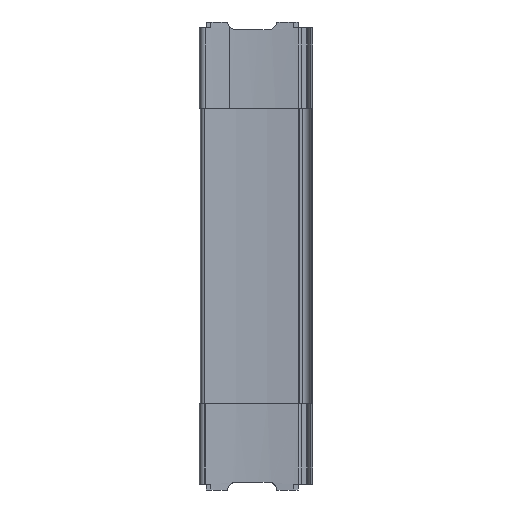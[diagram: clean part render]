
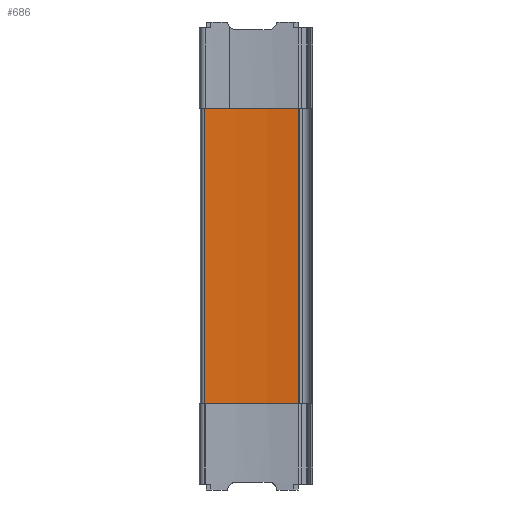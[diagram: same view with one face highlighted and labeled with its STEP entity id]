
A CAD part, left-side view. The second image highlights one B-rep face of the part: STEP entity #686.
In plain terms, the highlighted cylindrical face has radius 250 mm (diameter 500 mm), a partial arc.
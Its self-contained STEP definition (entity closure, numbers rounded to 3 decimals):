
#210 = VERTEX_POINT ( 'NONE', #452 ) ;
#212 = VERTEX_POINT ( 'NONE', #454 ) ;
#234 = VERTEX_POINT ( 'NONE', #476 ) ;
#238 = VERTEX_POINT ( 'NONE', #480 ) ;
#452 = CARTESIAN_POINT ( 'NONE',  ( -8.643, 8.331, 87.5 ) ) ;
#454 = CARTESIAN_POINT ( 'NONE',  ( -8.643, 8.331, -87.5 ) ) ;
#476 = CARTESIAN_POINT ( 'NONE',  ( -5.747, 63.571, -87.5 ) ) ;
#480 = CARTESIAN_POINT ( 'NONE',  ( -5.747, 63.571, 87.5 ) ) ;
#686 = ADVANCED_FACE ( 'NONE', ( #2044 ), #2041, .F. ) ;
#761 = EDGE_CURVE ( 'NONE', #238, #210, #1926, .T. ) ;
#762 = EDGE_CURVE ( 'NONE', #210, #212, #1928, .T. ) ;
#763 = EDGE_CURVE ( 'NONE', #212, #234, #1924, .T. ) ;
#838 = AXIS2_PLACEMENT_3D ( 'NONE', #1236, #1134, #1135 ) ;
#844 = AXIS2_PLACEMENT_3D ( 'NONE', #1139, #1141, #1142 ) ;
#894 = AXIS2_PLACEMENT_3D ( 'NONE', #1498, #1497, #1326 ) ;
#1134 = DIRECTION ( 'NONE',  ( 0., 0., -1. ) ) ;
#1135 = DIRECTION ( 'NONE',  ( 1., 0., 0. ) ) ;
#1137 = CARTESIAN_POINT ( 'NONE',  ( -8.643, 8.331, 93.5 ) ) ;
#1138 = DIRECTION ( 'NONE',  ( 0., 0., -1. ) ) ;
#1139 = CARTESIAN_POINT ( 'NONE',  ( -255.319, 48.963, -87.5 ) ) ;
#1141 = DIRECTION ( 'NONE',  ( 0., 0., 1. ) ) ;
#1142 = DIRECTION ( 'NONE',  ( -1., 0., 0. ) ) ;
#1236 = CARTESIAN_POINT ( 'NONE',  ( -255.319, 48.963, 87.5 ) ) ;
#1326 = DIRECTION ( 'NONE',  ( -1., 0., 0. ) ) ;
#1497 = DIRECTION ( 'NONE',  ( 0., 0., -1. ) ) ;
#1498 = CARTESIAN_POINT ( 'NONE',  ( -255.319, 48.963, 93.5 ) ) ;
#1924 = CIRCLE ( 'NONE', #844, 250. ) ;
#1926 = CIRCLE ( 'NONE', #838, 250. ) ;
#1928 = LINE ( 'NONE', #1137, #1932 ) ;
#1932 = VECTOR ( 'NONE', #1138, 1000. ) ;
#2041 = CYLINDRICAL_SURFACE ( 'NONE', #894, 250. ) ;
#2044 = FACE_OUTER_BOUND ( 'NONE', #2529, .T. ) ;
#2529 = EDGE_LOOP ( 'NONE', ( #2684, #2683, #2682, #2681 ) ) ;
#2681 = ORIENTED_EDGE ( 'NONE', *, *, #4275, .T. ) ;
#2682 = ORIENTED_EDGE ( 'NONE', *, *, #761, .F. ) ;
#2683 = ORIENTED_EDGE ( 'NONE', *, *, #762, .F. ) ;
#2684 = ORIENTED_EDGE ( 'NONE', *, *, #763, .F. ) ;
#3544 = CARTESIAN_POINT ( 'NONE',  ( -5.747, 63.571, 93.5 ) ) ;
#3548 = DIRECTION ( 'NONE',  ( 0., 0., -1. ) ) ;
#3885 = LINE ( 'NONE', #3544, #3887 ) ;
#3887 = VECTOR ( 'NONE', #3548, 1000. ) ;
#4275 = EDGE_CURVE ( 'NONE', #238, #234, #3885, .T. ) ;
